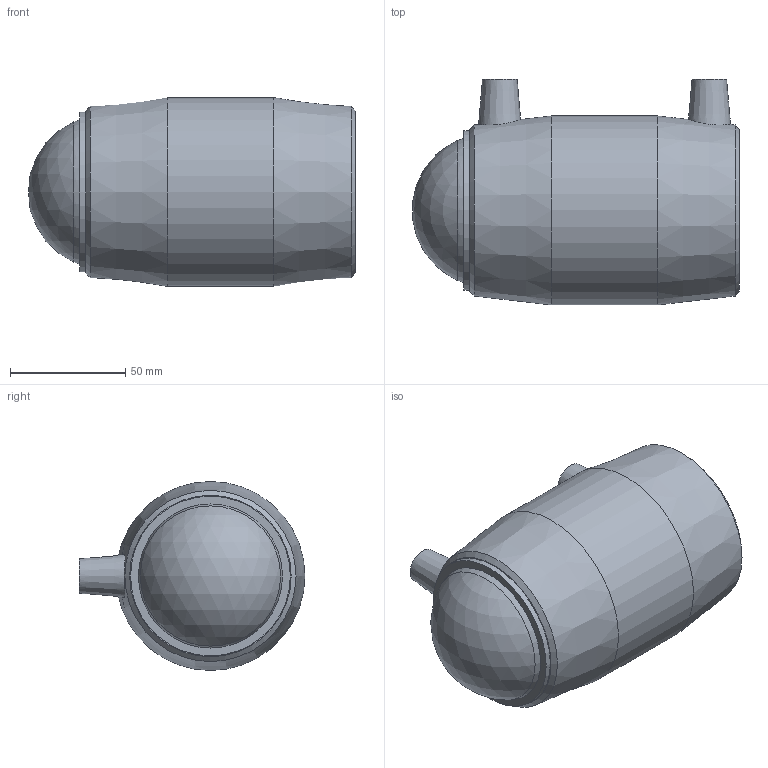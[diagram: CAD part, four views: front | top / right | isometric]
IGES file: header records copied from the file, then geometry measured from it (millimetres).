
Global section: file name: 491204063.ipt; native system: Autodesk Inventor 2015; preprocessor: unknown; author: KIM; date: 20171106.093752; units: millimetre
Bounding box: 141.78 x 98 x 82 mm (x, y, z)
Volume: 308364.8 mm3; surface area: 65395.3 mm2
Topology: 1 solids, 1 shells, 37 faces, 82 edges, 58 vertices
Faces by surface type: plane 13, revolution 13, cone 6, cylinder 4, sphere 1
Full cylindrical faces by diameter (mm): 4 x2, 69.3 x1, 82 x1
